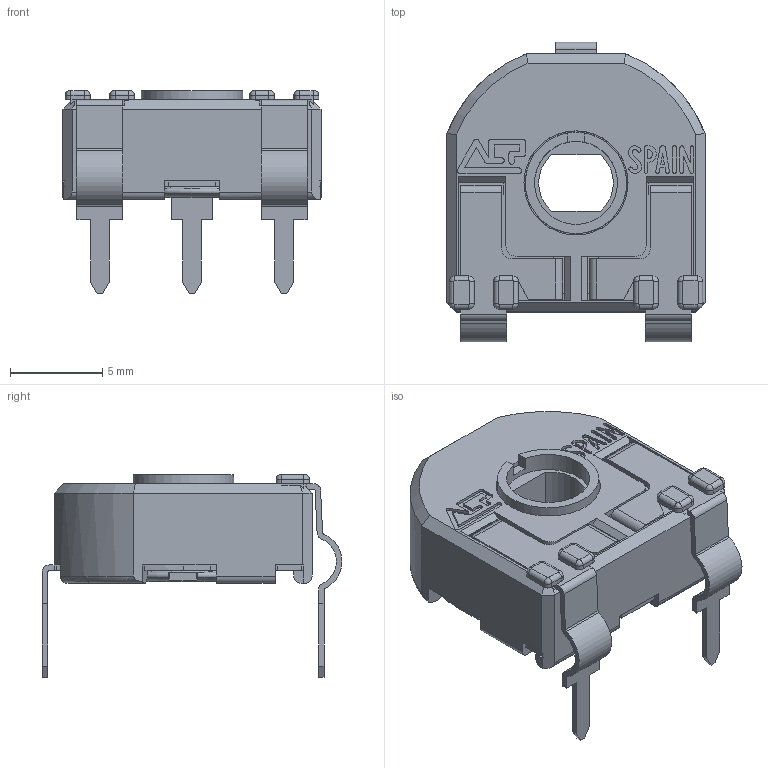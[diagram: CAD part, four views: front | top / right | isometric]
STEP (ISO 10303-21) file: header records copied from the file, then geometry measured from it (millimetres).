
FILE_DESCRIPTION(/* description */ (''),/* implementation_level */ '2;1');
FILE_NAME(/* name */ 'C:\Users\CEM\Desktop\ENVIAR\TRANSICION 3D CATALOGOS\CAR14NVR15.stp',/* time_stamp */ '2025-09-22T10:01:42+02:00',/* author */ ('CEM'),/* organization */ (''),/* preprocessor_version */ 'ST-DEVELOPER v17',/* originating_system */ 'Autodesk Inventor 2018',/* authorisation */ '');
FILE_SCHEMA (('AUTOMOTIVE_DESIGN { 1 0 10303 214 3 1 1 }'));
Length unit declared in the file: millimetre
Products named in the file (1): CAR14NVR15
Bounding box: 14 x 16.27 x 11 mm (x, y, z)
Volume: 549.9 mm3; surface area: 1561 mm2
Topology: 1 solids, 1 shells, 603 faces, 1760 edges, 1129 vertices
Faces by surface type: plane 404, cylinder 156, bspline 20, cone 14, torus 9
Full cylindrical faces by diameter (mm): 1.2 x2, 4.5 x1, 5.5 x1, 5.65 x1, 6.88 x1
Entity records: 20650 total; most frequent: CARTESIAN_POINT 3817, ORIENTED_EDGE 3520, DIRECTION 3321, EDGE_CURVE 1760, LINE 1291, VECTOR 1291, VERTEX_POINT 1129, AXIS2_PLACEMENT_3D 1015
